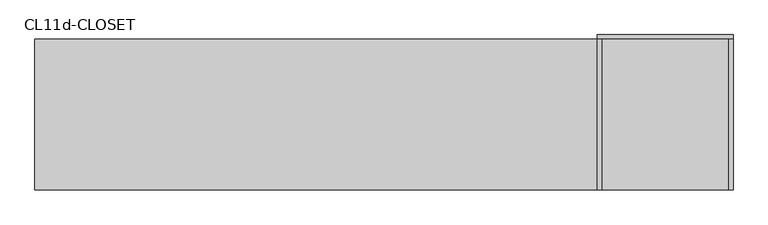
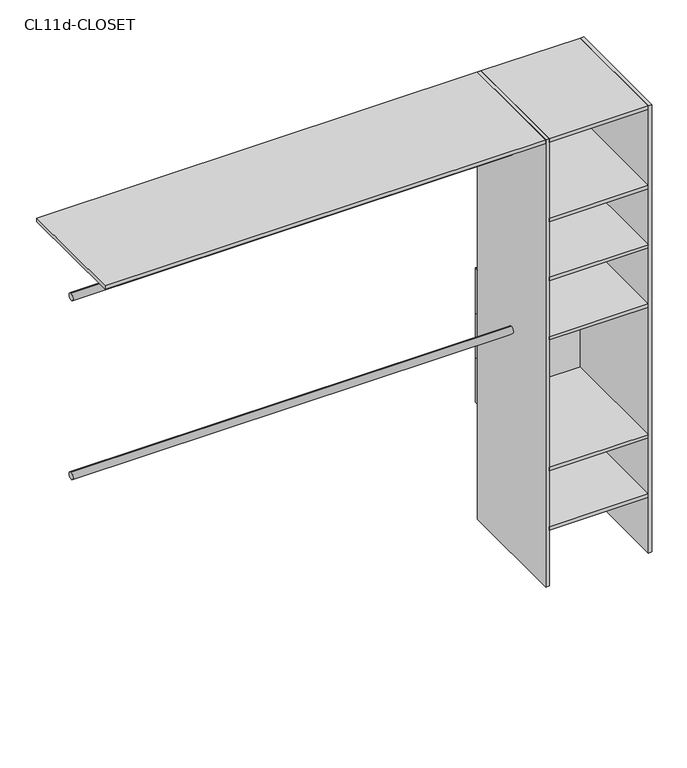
"""IFC4 building model written with IfcOpenShell, lengths in millimetres: furniture geometry, Closet 1estantes-1tubos_sin laterales : CL11d-CLOSET."""

from ifc_helpers import new_model, si_unit, point, frame, frame_2d, origin, origin_with_axes, place, context, project, spatial, polyline, circle_curve, trimmed, segment, composite_curve, outline, extrude, source, transform, mapped, element, save


def cl11d_closet_2c9b1320(model_context):
    return source(origin(), model_context, "Body", "SweptSolid", [
        extrude(outline(polyline([(225.0, -100.0), (225.0, -600.0), (210.0, -600.0), (210.0, -100.0), (225.0, -100.0)])), origin_with_axes(), (0.0, 0.0, 1.0), 2000.0),
        extrude(outline(polyline([(-210.0, -100.0), (-210.0, -600.0), (-225.0, -600.0), (-225.0, -100.0), (-210.0, -100.0)])), origin_with_axes(), (0.0, 0.0, 1.0), 2000.0),
        extrude(outline(polyline([(225.0, -100.0), (-225.0, -100.0), (-225.0, -85.0), (225.0, -85.0), (225.0, -100.0)])), frame((0.0, 0.0, 915.0), z_axis=(0.0, 0.0, 1.0), x_axis=(1.0, 0.0, 0.0)), (0.0, 0.0, 1.0), 200.0),
        extrude(outline(polyline([(225.0, -100.0), (-225.0, -100.0), (-225.0, -85.0), (225.0, -85.0), (225.0, -100.0)])), frame((0.0, 0.0, 715.0), z_axis=(0.0, 0.0, 1.0), x_axis=(1.0, 0.0, 0.0)), (0.0, 0.0, 1.0), 200.0),
        extrude(outline(polyline([(225.0, -100.0), (-225.0, -100.0), (-225.0, -85.0), (225.0, -85.0), (225.0, -100.0)])), frame((0.0, 0.0, 515.0), z_axis=(0.0, 0.0, 1.0), x_axis=(1.0, 0.0, 0.0)), (0.0, 0.0, 1.0), 200.0),
        extrude(outline(polyline([(210.0, -100.0), (210.0, -600.0), (-210.0, -600.0), (-210.0, -100.0), (210.0, -100.0)])), frame((0.0, 0.0, 1100.0), z_axis=(0.0, 0.0, 1.0), x_axis=(1.0, 0.0, 0.0)), (0.0, 0.0, 1.0), 15.0),
        extrude(outline(composite_curve([segment(trimmed(circle_curve(frame_2d((-350.0, 1000.0)), 15.0), [point((-350.0, 1015.0))], [point((-350.0, 985.0))], False, "CARTESIAN"), True, "CONTINUOUS"), segment(trimmed(circle_curve(frame_2d((-350.0, 1000.0)), 15.0), [point((-350.0, 985.0))], [point((-350.0, 1015.0))], False, "CARTESIAN"), True, "CONTINUOUS")], self_intersect=False)), frame((-2090.0, 0.0, 0.0), z_axis=(1.0, 0.0, 0.0), x_axis=(0.0, 1.0, 0.0)), (0.0, 0.0, 1.0), 1865.0),
        extrude(outline(composite_curve([segment(trimmed(circle_curve(frame_2d((-350.0, 1800.0)), 15.0), [point((-350.0, 1815.0))], [point((-350.0, 1785.0))], False, "CARTESIAN"), True, "CONTINUOUS"), segment(trimmed(circle_curve(frame_2d((-350.0, 1800.0)), 15.0), [point((-350.0, 1785.0))], [point((-350.0, 1815.0))], False, "CARTESIAN"), True, "CONTINUOUS")], self_intersect=False)), frame((-2090.0, 0.0, 0.0), z_axis=(1.0, 0.0, 0.0), x_axis=(0.0, 1.0, 0.0)), (0.0, 0.0, 1.0), 1865.0),
        extrude(outline(polyline([(210.0, -100.0), (210.0, -600.0), (-210.0, -600.0), (-210.0, -100.0), (210.0, -100.0)])), frame((0.0, 0.0, 250.0), z_axis=(0.0, 0.0, 1.0), x_axis=(1.0, 0.0, 0.0)), (0.0, 0.0, 1.0), 15.0),
        extrude(outline(polyline([(210.0, -100.0), (210.0, -600.0), (-210.0, -600.0), (-210.0, -100.0), (210.0, -100.0)])), frame((0.0, 0.0, 515.0), z_axis=(0.0, 0.0, 1.0), x_axis=(1.0, 0.0, 0.0)), (0.0, 0.0, 1.0), 15.0),
        extrude(outline(polyline([(210.0, -100.0), (210.0, -600.0), (-210.0, -600.0), (-210.0, -100.0), (210.0, -100.0)])), frame((0.0, 0.0, 1365.0), z_axis=(0.0, 0.0, 1.0), x_axis=(1.0, 0.0, 0.0)), (0.0, 0.0, 1.0), 15.0),
        extrude(outline(polyline([(210.0, -100.0), (210.0, -600.0), (-210.0, -600.0), (-210.0, -100.0), (210.0, -100.0)])), frame((0.0, 0.0, 1630.0), z_axis=(0.0, 0.0, 1.0), x_axis=(1.0, 0.0, 0.0)), (0.0, 0.0, 1.0), 15.0),
        extrude(outline(polyline([(-210.0, -100.0), (-210.0, -600.0), (-2090.0, -600.0), (-2090.0, -100.0), (-210.0, -100.0)])), frame((0.0, 0.0, 1985.0), z_axis=(0.0, 0.0, 1.0), x_axis=(1.0, 0.0, 0.0)), (0.0, 0.0, 1.0), 15.0),
        extrude(outline(polyline([(210.0, -100.0), (210.0, -600.0), (-210.0, -600.0), (-210.0, -100.0), (210.0, -100.0)])), frame((0.0, 0.0, 1985.0), z_axis=(0.0, 0.0, 1.0), x_axis=(1.0, 0.0, 0.0)), (0.0, 0.0, 1.0), 15.0),
    ])


if __name__ == "__main__":
    model = new_model("IFC4")
    model_context = context("Model", 3, world=origin())
    ifc_project = project(units=[si_unit("LENGTHUNIT", "METRE", prefix="MILLI")], contexts=[model_context])
    site = spatial("IfcSite", under=ifc_project)
    building = spatial("IfcBuilding", under=site)
    placement = place(None, origin())
    cl11d_closet_shape = cl11d_closet_2c9b1320(model_context)
    element("IfcFurniture", 1, ObjectType="Closet 1estantes-1tubos_sin laterales : CL11d-CLOSET", at=placement, inside=building, context=model_context, shape_type="MappedRepresentation", body=[
        mapped(cl11d_closet_shape, transform((0.0, 0.0, 0.0), x_axis=(1.0, 0.0, 0.0), y_axis=(0.0, 1.0, 0.0), z_axis=(0.0, 0.0, 1.0))),
    ])
    save(model, "model.ifc")
